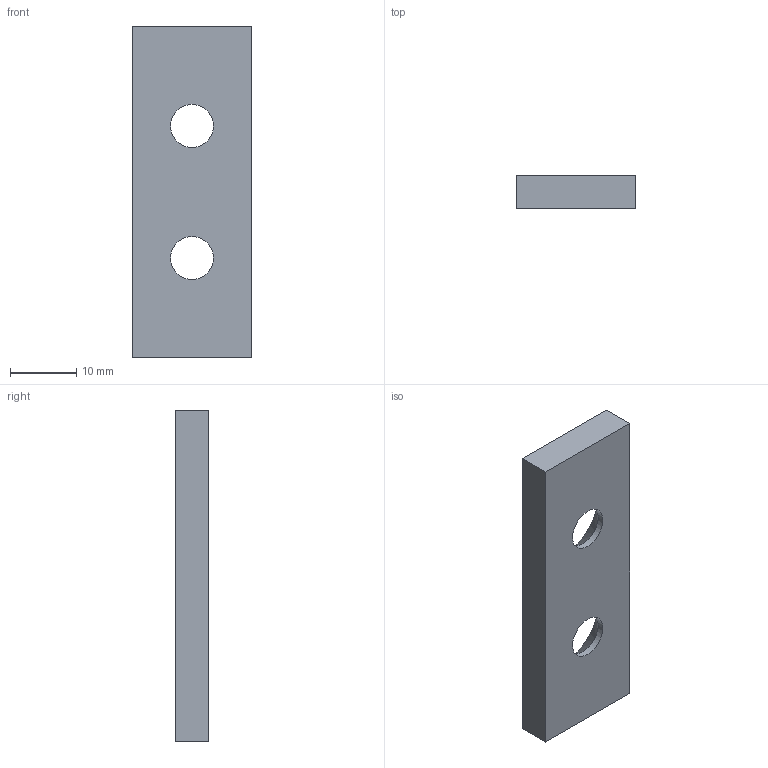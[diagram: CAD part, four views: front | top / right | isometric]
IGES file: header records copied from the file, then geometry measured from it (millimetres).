
Start section: Data from Parasolid IGES Translator 20.0.26, Copyright(c) 2006 Siemens P LM Software. All Rights Reserved.
Global section: file name: P605-01-018-050.igs; native system: By Siemens PLM Incorporated; preprocessor: XPlus GENERIC/IGES 20.0.26; author: Noname; organization: Noname; date: 20190705.145316; units: millimetre
Bounding box: 18 x 5 x 50 mm (x, y, z)
Surface area: 2497.4 mm2 (no closed solid volume)
Topology: 0 solids, 0 shells, 10 faces, 44 edges, 43 vertices
Faces by surface type: extrusion 6, revolution 4
